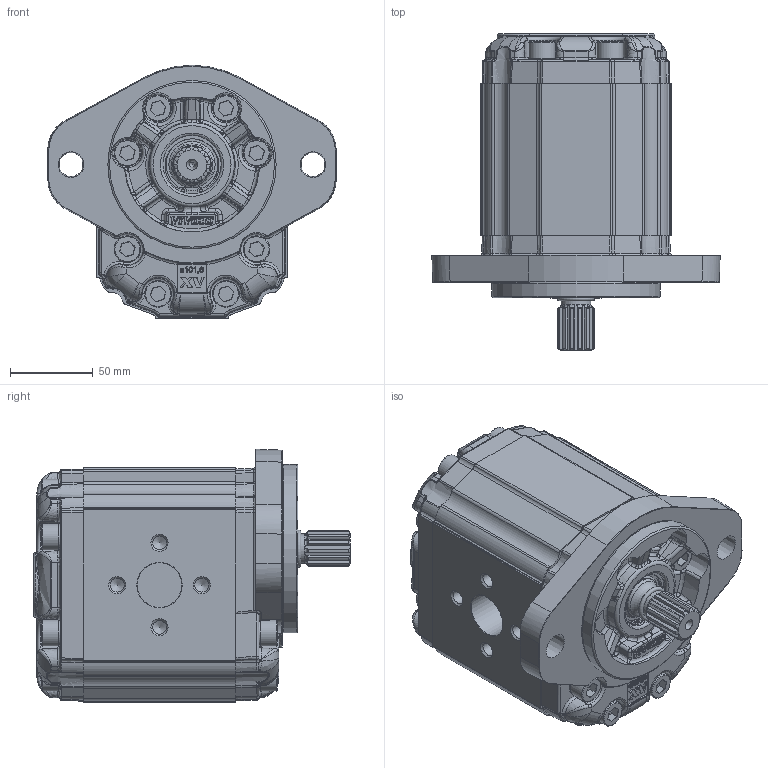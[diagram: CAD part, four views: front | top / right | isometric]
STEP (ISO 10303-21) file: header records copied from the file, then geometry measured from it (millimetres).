
FILE_DESCRIPTION(/* description */ ('Unknown'),/* implementation_level */ '2;1');
FILE_NAME(/* name */ 'X3R8031IBBF',/* time_stamp */ '2021-04-26T13:00:54+02:00',/* author */ ('Unknown'),/* organization */ ('Unknown'),/* preprocessor_version */ 'ST-DEVELOPER v16.7',/* originating_system */ 'Solid Edge',/* authorisation */ 'Unknown');
FILE_SCHEMA (('AUTOMOTIVE_DESIGN {1 0 10303 214 3 1 1}'));
Products named in the file (5): X3R8031IBBF; X3R31; 3I; X3BBH92; XR331-F
Assembly tree (4 placements, depth 2):
  X3R8031IBBF
    X3R31
    3I
    X3BBH92
    XR331-F
Bounding box: 174 x 191.2 x 153 mm (x, y, z)
Volume: 2154754 mm3; surface area: 210640.7 mm2
Topology: 4 solids, 21 shells, 3062 faces, 7898 edges, 4993 vertices
Faces by surface type: bspline 1317, plane 876, cylinder 654, cone 105, torus 94, sphere 16
Full cylindrical faces by diameter (mm): 2 x2, 8.376 x8, 10 x16, 15.8 x16, 16 x16, 18 x2, 24.98 x1, 25 x2, 25.968 x1, 27 x2, 28.16 x1, 31.293 x1, 32.742 x1, 34.956 x1, 35 x1, 35.2 x1, 37 x1, 101.6 x1
Entity records: 162906 total; most frequent: CARTESIAN_POINT 82491, ORIENTED_EDGE 15348, EDGE_CURVE 7674, DIRECTION 6756, B_SPLINE_CURVE_WITH_KNOTS 4985, VERTEX_POINT 4932, FACE_BOUND 3354, EDGE_LOOP 3344
